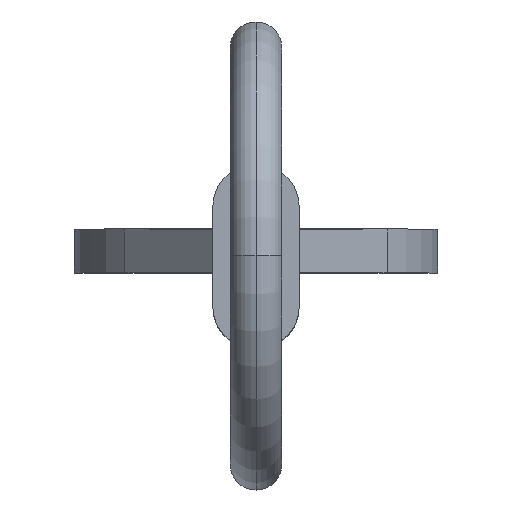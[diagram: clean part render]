
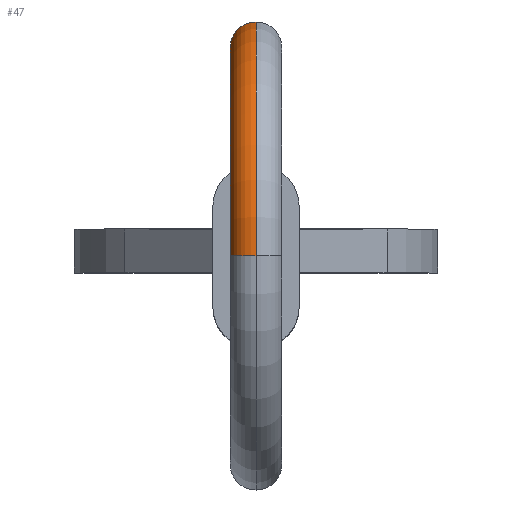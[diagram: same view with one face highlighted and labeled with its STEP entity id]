
A CAD part, top view. The second image highlights one B-rep face of the part: STEP entity #47.
In plain terms, the highlighted toroidal (fillet/blend) face has major radius 4.8 mm and minor radius 0.595 mm.
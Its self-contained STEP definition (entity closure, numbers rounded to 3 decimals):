
#7 = CIRCLE ( 'NONE', #393, 0.595 ) ;
#23 = DIRECTION ( 'NONE',  ( -1., 0., 0. ) ) ;
#25 = FACE_OUTER_BOUND ( 'NONE', #582, .T. ) ;
#37 = EDGE_CURVE ( 'NONE', #370, #838, #656, .T. ) ;
#40 = DIRECTION ( 'NONE',  ( -1., 0., 0. ) ) ;
#47 = ADVANCED_FACE ( 'NONE', ( #25 ), #528, .T. ) ;
#88 = DIRECTION ( 'NONE',  ( 1., 0., 0. ) ) ;
#156 = AXIS2_PLACEMENT_3D ( 'NONE', #606, #600, #676 ) ;
#157 = DIRECTION ( 'NONE',  ( 0., -1., 0. ) ) ;
#177 = DIRECTION ( 'NONE',  ( 0., 0., 1. ) ) ;
#285 = CARTESIAN_POINT ( 'NONE',  ( 0., -1.133, 295.195 ) ) ;
#303 = CARTESIAN_POINT ( 'NONE',  ( 0., -1.133, 294.005 ) ) ;
#315 = CARTESIAN_POINT ( 'NONE',  ( 0., 2.001, 286.997 ) ) ;
#323 = CARTESIAN_POINT ( 'NONE',  ( 0., -1.133, 289.8 ) ) ;
#348 = AXIS2_PLACEMENT_3D ( 'NONE', #893, #23, #907 ) ;
#357 = VERTEX_POINT ( 'NONE', #285 ) ;
#370 = VERTEX_POINT ( 'NONE', #303 ) ;
#393 = AXIS2_PLACEMENT_3D ( 'NONE', #662, #587, #88 ) ;
#416 = ORIENTED_EDGE ( 'NONE', *, *, #37, .F. ) ;
#442 = VERTEX_POINT ( 'NONE', #658 ) ;
#448 = EDGE_CURVE ( 'NONE', #442, #838, #7, .T. ) ;
#463 = EDGE_CURVE ( 'NONE', #357, #370, #843, .T. ) ;
#528 = TOROIDAL_SURFACE ( 'NONE', #530, 4.8, 0.595 ) ;
#530 = AXIS2_PLACEMENT_3D ( 'NONE', #323, #40, #177 ) ;
#561 = EDGE_CURVE ( 'NONE', #357, #442, #688, .T. ) ;
#572 = DIRECTION ( 'NONE',  ( 0., 0., -1. ) ) ;
#582 = EDGE_LOOP ( 'NONE', ( #593, #710, #929, #416 ) ) ;
#587 = DIRECTION ( 'NONE',  ( 0., 0.667, 0.745 ) ) ;
#593 = ORIENTED_EDGE ( 'NONE', *, *, #463, .F. ) ;
#600 = DIRECTION ( 'NONE',  ( -1., 0., 0. ) ) ;
#606 = CARTESIAN_POINT ( 'NONE',  ( 0., -1.133, 289.8 ) ) ;
#656 = CIRCLE ( 'NONE', #156, 4.205 ) ;
#658 = CARTESIAN_POINT ( 'NONE',  ( 0., 2.888, 286.203 ) ) ;
#659 = AXIS2_PLACEMENT_3D ( 'NONE', #816, #157, #572 ) ;
#662 = CARTESIAN_POINT ( 'NONE',  ( 0., 2.445, 286.6 ) ) ;
#676 = DIRECTION ( 'NONE',  ( 0., 0., 1. ) ) ;
#688 = CIRCLE ( 'NONE', #348, 5.395 ) ;
#710 = ORIENTED_EDGE ( 'NONE', *, *, #561, .T. ) ;
#816 = CARTESIAN_POINT ( 'NONE',  ( 0., -1.133, 294.6 ) ) ;
#838 = VERTEX_POINT ( 'NONE', #315 ) ;
#843 = CIRCLE ( 'NONE', #659, 0.595 ) ;
#893 = CARTESIAN_POINT ( 'NONE',  ( 0., -1.133, 289.8 ) ) ;
#907 = DIRECTION ( 'NONE',  ( 0., 0., 1. ) ) ;
#929 = ORIENTED_EDGE ( 'NONE', *, *, #448, .T. ) ;
